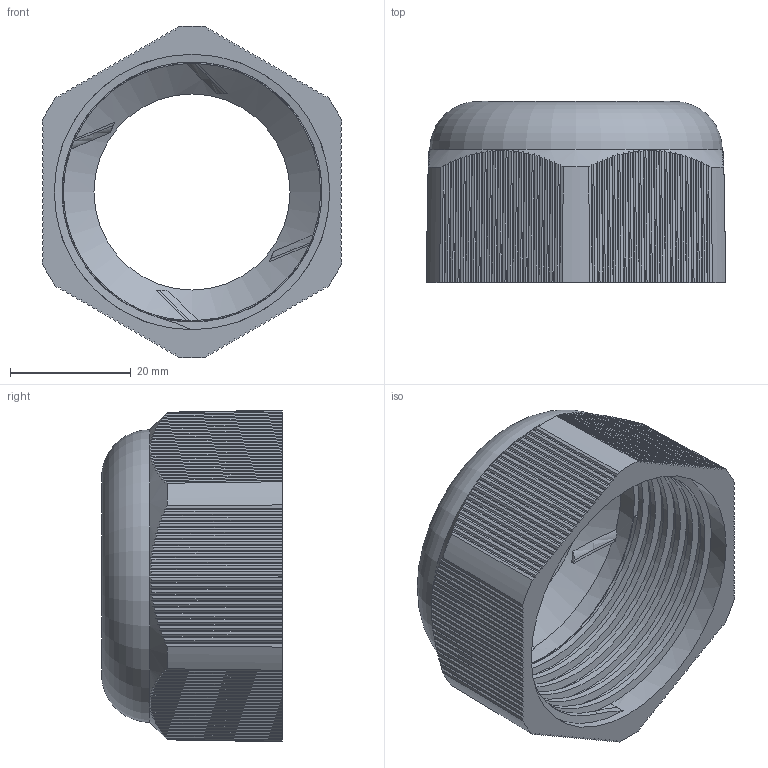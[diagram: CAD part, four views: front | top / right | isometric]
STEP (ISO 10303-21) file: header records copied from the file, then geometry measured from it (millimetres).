
FILE_DESCRIPTION (( 'STEP AP203' ), '1' );
FILE_NAME ('Ãàéêà öàíãîâàÿ (PG36).STEP', '2020-08-06T09:30:21', ( '' ), ( '' ), 'SwSTEP 2.0', 'SolidWorks 2019', '' );
FILE_SCHEMA (( 'CONFIG_CONTROL_DESIGN' ));
Length unit declared in the file: millimetre
Products named in the file (1): Ãàéêà öàíãîâàÿ (PG36)
Bounding box: 49.7 x 29.98 x 54.98 mm (x, y, z)
Volume: 15770.5 mm3; surface area: 12614.2 mm2
Topology: 1 solids, 1 shells, 463 faces, 1377 edges, 916 vertices
Faces by surface type: plane 431, cone 12, cylinder 11, bspline 7, torus 2
Full cylindrical faces by diameter (mm): 32.5 x1, 42.7 x1, 45.7 x6
Entity records: 17087 total; most frequent: CARTESIAN_POINT 5745, ORIENTED_EDGE 2698, DIRECTION 1805, EDGE_CURVE 1349, VERTEX_POINT 901, LINE 847, VECTOR 847, AXIS2_PLACEMENT_3D 479
